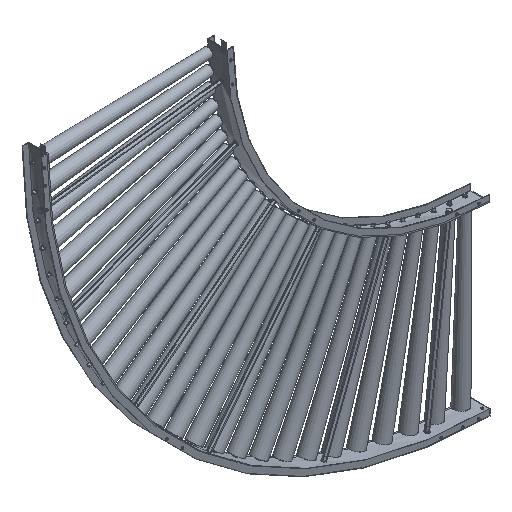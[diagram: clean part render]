
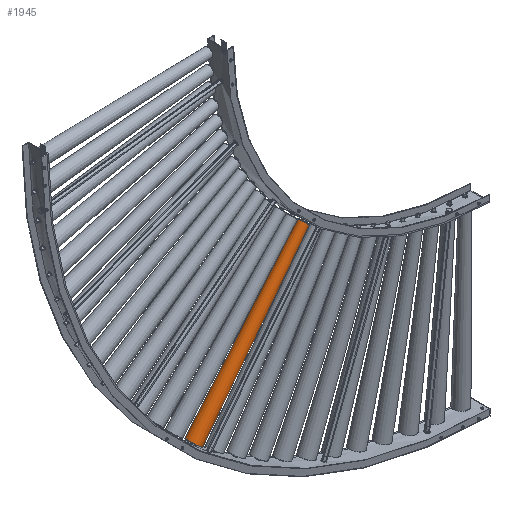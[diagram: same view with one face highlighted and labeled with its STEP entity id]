
A CAD part, isometric view. The second image highlights one B-rep face of the part: STEP entity #1945.
In plain terms, the highlighted conical face has half-angle 0.799 degrees and reference radius 32.5 mm.
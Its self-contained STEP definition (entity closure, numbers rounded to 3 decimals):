
#520 = ORIENTED_EDGE ( 'NONE', *, *, #1533, .T. ) ;
#1247 = DIRECTION ( 'NONE',  ( -0.652, -0.004, -0.758 ) ) ;
#1510 = EDGE_CURVE ( 'NONE', #3612, #5958, #27572, .T. ) ;
#1533 = EDGE_CURVE ( 'NONE', #6229, #20772, #29961, .T. ) ;
#1945 = ADVANCED_FACE ( 'NONE', ( #2483 ), #2168, .T. ) ;
#2027 = ORIENTED_EDGE ( 'NONE', *, *, #22834, .T. ) ;
#2108 = CARTESIAN_POINT ( 'NONE',  ( -586.95, 95.488, -835.057 ) ) ;
#2168 = CONICAL_SURFACE ( 'NONE', #37637, 32.5, 0.014 ) ;
#2483 = FACE_OUTER_BOUND ( 'NONE', #5064, .T. ) ;
#3612 = VERTEX_POINT ( 'NONE', #2108 ) ;
#4046 = CARTESIAN_POINT ( 'NONE',  ( -608.338, 128.12, -817.64 ) ) ;
#4896 = AXIS2_PLACEMENT_3D ( 'NONE', #5901, #18934, #36200 ) ;
#5064 = EDGE_LOOP ( 'NONE', ( #20988, #2027, #520, #41383 ) ) ;
#5166 = CIRCLE ( 'NONE', #39259, 32.486 ) ;
#5901 = CARTESIAN_POINT ( 'NONE',  ( -597.644, 111.804, -826.349 ) ) ;
#5958 = VERTEX_POINT ( 'NONE', #18186 ) ;
#6229 = VERTEX_POINT ( 'NONE', #4046 ) ;
#6926 = CIRCLE ( 'NONE', #4896, 21.364 ) ;
#10341 = VECTOR ( 'NONE', #31170, 1000. ) ;
#11496 = CARTESIAN_POINT ( 'NONE',  ( -1096.584, 75.219, -1450.208 ) ) ;
#13715 = DIRECTION ( 'NONE',  ( 0.501, -0.764, -0.408 ) ) ;
#18186 = CARTESIAN_POINT ( 'NONE',  ( -1095.938, 75.245, -1449.427 ) ) ;
#18934 = DIRECTION ( 'NONE',  ( -0.645, -0.015, -0.764 ) ) ;
#20772 = VERTEX_POINT ( 'NONE', #40300 ) ;
#20988 = ORIENTED_EDGE ( 'NONE', *, *, #1510, .F. ) ;
#21930 = CARTESIAN_POINT ( 'NONE',  ( -1112.852, 100.041, -1436.96 ) ) ;
#22834 = EDGE_CURVE ( 'NONE', #3612, #6229, #6926, .T. ) ;
#24668 = VECTOR ( 'NONE', #1247, 1000. ) ;
#26759 = CARTESIAN_POINT ( 'NONE',  ( -1112.198, 100.056, -1436.185 ) ) ;
#27572 = LINE ( 'NONE', #11496, #10341 ) ;
#29961 = LINE ( 'NONE', #40585, #24668 ) ;
#31170 = DIRECTION ( 'NONE',  ( -0.638, -0.025, -0.77 ) ) ;
#34961 = DIRECTION ( 'NONE',  ( -0.501, 0.764, 0.408 ) ) ;
#36200 = DIRECTION ( 'NONE',  ( 0.501, -0.764, -0.408 ) ) ;
#37637 = AXIS2_PLACEMENT_3D ( 'NONE', #21930, #41397, #34961 ) ;
#39259 = AXIS2_PLACEMENT_3D ( 'NONE', #26759, #39552, #13715 ) ;
#39552 = DIRECTION ( 'NONE',  ( 0.645, 0.015, 0.764 ) ) ;
#39767 = EDGE_CURVE ( 'NONE', #20772, #5958, #5166, .T. ) ;
#40300 = CARTESIAN_POINT ( 'NONE',  ( -1128.459, 124.866, -1422.943 ) ) ;
#40585 = CARTESIAN_POINT ( 'NONE',  ( -1129.12, 124.862, -1423.712 ) ) ;
#41383 = ORIENTED_EDGE ( 'NONE', *, *, #39767, .T. ) ;
#41397 = DIRECTION ( 'NONE',  ( -0.645, -0.015, -0.764 ) ) ;
